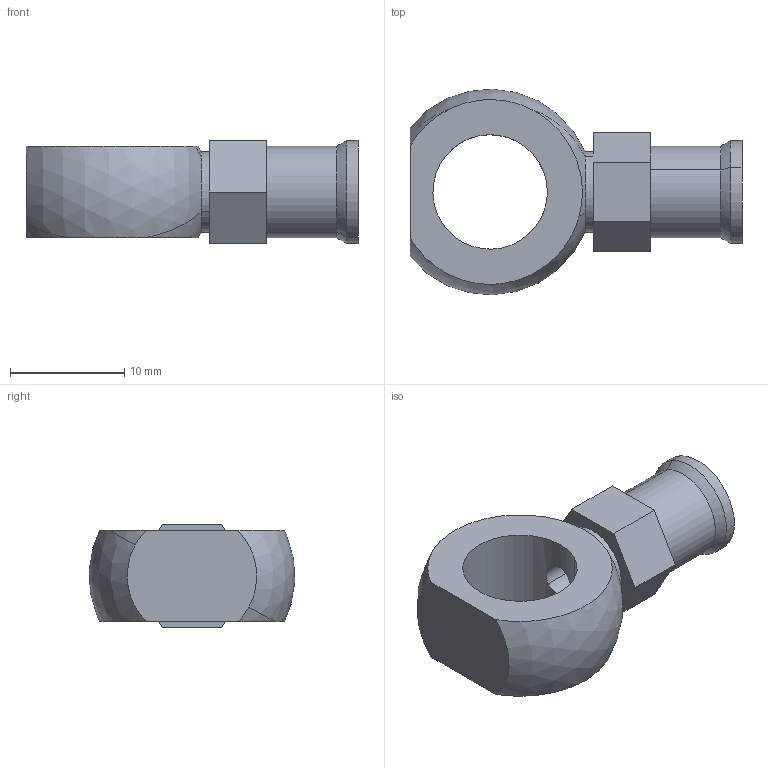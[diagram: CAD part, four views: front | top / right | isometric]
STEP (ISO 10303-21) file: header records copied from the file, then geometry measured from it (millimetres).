
FILE_DESCRIPTION(('3DEXPERIENCE STEP','CAx-IF Rec.Pracs.--- Model Styling and Organization---1.5--- 2016-08-15','CAx-IF Rec.Pracs.---Supplemental Geometry---1.0---2011-11-01','CAx-IF Rec.Pracs.--- Composite Materials ---3.4---2017-06-13','CAx-IF Rec.Pracs.---Tessellated 3D Geometry---1.0---2015-12-17'),'2;1');
FILE_NAME('\\?\D:\School\CarTech\CTU.25\Tutorials\Model\OEM\Banjo.stp','2024-09-26T02:42:20+00:00',('none'),('none'),'3DEXPERIENCE Platform3DEXPERIENCE R2024x HotFix 4.24','3DEXPERIENCE Platform STEP AP242 v3','none');
FILE_SCHEMA(('AP242_MANAGED_MODEL_BASED_3D_ENGINEERING_MIM_LF {1 0 10303 442 1 1 4}'));
Length unit declared in the file: millimetre
Products named in the file (1): Banjo_goodridge_5091-02-03
Bounding box: 29 x 17.97 x 9 mm (x, y, z)
Volume: 1735.6 mm3; surface area: 1584.6 mm2
Topology: 1 solids, 1 shells, 33 faces, 78 edges, 50 vertices
Faces by surface type: plane 13, cylinder 12, sphere 6, cone 2
Entity records: 1221 total; most frequent: CARTESIAN_POINT 504, ORIENTED_EDGE 156, DIRECTION 108, EDGE_CURVE 78, AXIS2_PLACEMENT_3D 51, VERTEX_POINT 50, EDGE_LOOP 40, VECTOR 34
